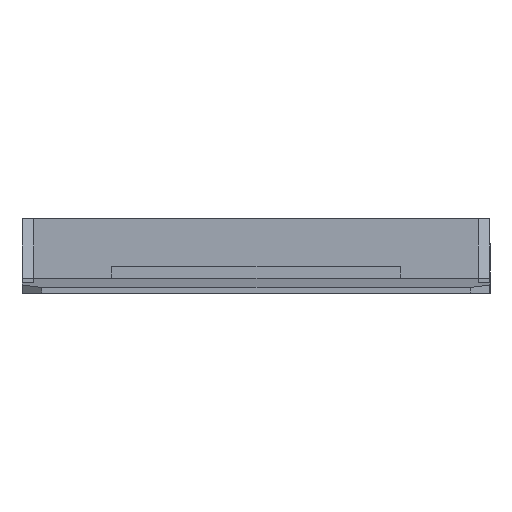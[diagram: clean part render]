
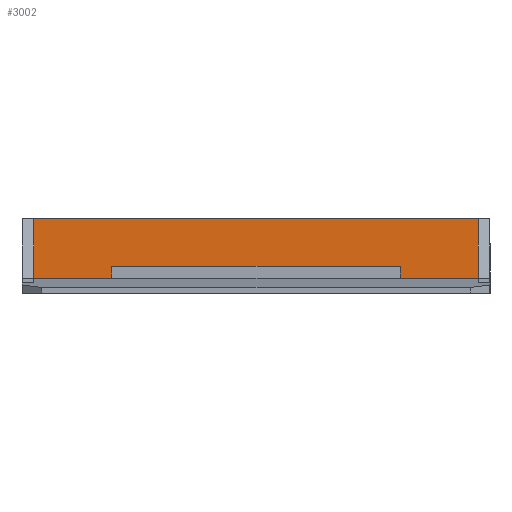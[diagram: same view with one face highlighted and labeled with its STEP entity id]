
A CAD part, left-side view. The second image highlights one B-rep face of the part: STEP entity #3002.
In plain terms, the highlighted planar face has unit normal (-1, 0, 0).
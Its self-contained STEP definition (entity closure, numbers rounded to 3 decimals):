
#1884 = PLANE('',#1885);
#1885 = AXIS2_PLACEMENT_3D('',#1886,#1887,#1888);
#1886 = CARTESIAN_POINT('',(92.,2.4,15.));
#1887 = DIRECTION('',(-0.,-0.,-1.));
#1888 = DIRECTION('',(-1.,0.,0.));
#1922 = VERTEX_POINT('',#1923);
#1923 = CARTESIAN_POINT('',(88.,2.4,15.));
#1939 = PLANE('',#1940);
#1940 = AXIS2_PLACEMENT_3D('',#1941,#1942,#1943);
#1941 = CARTESIAN_POINT('',(51.831,2.4,6.999));
#1942 = DIRECTION('',(-0.,-1.,-0.));
#1943 = DIRECTION('',(0.,0.,-1.));
#1951 = EDGE_CURVE('',#1922,#1952,#1954,.T.);
#1952 = VERTEX_POINT('',#1953);
#1953 = CARTESIAN_POINT('',(88.,91.6,15.));
#1954 = SURFACE_CURVE('',#1955,(#1959,#1966),.PCURVE_S1.);
#1955 = LINE('',#1956,#1957);
#1956 = CARTESIAN_POINT('',(88.,0.,15.));
#1957 = VECTOR('',#1958,1.);
#1958 = DIRECTION('',(0.,1.,0.));
#1959 = PCURVE('',#1884,#1960);
#1960 = DEFINITIONAL_REPRESENTATION('',(#1961),#1965);
#1961 = LINE('',#1962,#1963);
#1962 = CARTESIAN_POINT('',(4.,-2.4));
#1963 = VECTOR('',#1964,1.);
#1964 = DIRECTION('',(0.,1.));
#1965 = ( GEOMETRIC_REPRESENTATION_CONTEXT(2) 
PARAMETRIC_REPRESENTATION_CONTEXT() REPRESENTATION_CONTEXT('2D SPACE',''
  ) );
#1966 = PCURVE('',#1967,#1972);
#1967 = PLANE('',#1968);
#1968 = AXIS2_PLACEMENT_3D('',#1969,#1970,#1971);
#1969 = CARTESIAN_POINT('',(88.,0.,0.));
#1970 = DIRECTION('',(1.,0.,0.));
#1971 = DIRECTION('',(0.,0.,1.));
#1972 = DEFINITIONAL_REPRESENTATION('',(#1973),#1977);
#1973 = LINE('',#1974,#1975);
#1974 = CARTESIAN_POINT('',(15.,0.));
#1975 = VECTOR('',#1976,1.);
#1976 = DIRECTION('',(0.,-1.));
#1977 = ( GEOMETRIC_REPRESENTATION_CONTEXT(2) 
PARAMETRIC_REPRESENTATION_CONTEXT() REPRESENTATION_CONTEXT('2D SPACE',''
  ) );
#1995 = PLANE('',#1996);
#1996 = AXIS2_PLACEMENT_3D('',#1997,#1998,#1999);
#1997 = CARTESIAN_POINT('',(51.831,91.6,6.999));
#1998 = DIRECTION('',(-0.,-1.,-0.));
#1999 = DIRECTION('',(0.,0.,-1.));
#2353 = PLANE('',#2354);
#2354 = AXIS2_PLACEMENT_3D('',#2355,#2356,#2357);
#2355 = CARTESIAN_POINT('',(92.,94.,3.));
#2356 = DIRECTION('',(-0.,-0.,-1.));
#2357 = DIRECTION('',(-1.,0.,0.));
#2552 = VERTEX_POINT('',#2553);
#2553 = CARTESIAN_POINT('',(88.,91.6,3.));
#2574 = EDGE_CURVE('',#2552,#2575,#2577,.T.);
#2575 = VERTEX_POINT('',#2576);
#2576 = CARTESIAN_POINT('',(88.,73.636,3.));
#2577 = SURFACE_CURVE('',#2578,(#2582,#2589),.PCURVE_S1.);
#2578 = LINE('',#2579,#2580);
#2579 = CARTESIAN_POINT('',(88.,47.,3.));
#2580 = VECTOR('',#2581,1.);
#2581 = DIRECTION('',(0.,-1.,0.));
#2582 = PCURVE('',#2353,#2583);
#2583 = DEFINITIONAL_REPRESENTATION('',(#2584),#2588);
#2584 = LINE('',#2585,#2586);
#2585 = CARTESIAN_POINT('',(4.,-47.));
#2586 = VECTOR('',#2587,1.);
#2587 = DIRECTION('',(0.,-1.));
#2588 = ( GEOMETRIC_REPRESENTATION_CONTEXT(2) 
PARAMETRIC_REPRESENTATION_CONTEXT() REPRESENTATION_CONTEXT('2D SPACE',''
  ) );
#2589 = PCURVE('',#1967,#2590);
#2590 = DEFINITIONAL_REPRESENTATION('',(#2591),#2595);
#2591 = LINE('',#2592,#2593);
#2592 = CARTESIAN_POINT('',(3.,-47.));
#2593 = VECTOR('',#2594,1.);
#2594 = DIRECTION('',(0.,1.));
#2595 = ( GEOMETRIC_REPRESENTATION_CONTEXT(2) 
PARAMETRIC_REPRESENTATION_CONTEXT() REPRESENTATION_CONTEXT('2D SPACE',''
  ) );
#2613 = PLANE('',#2614);
#2614 = AXIS2_PLACEMENT_3D('',#2615,#2616,#2617);
#2615 = CARTESIAN_POINT('',(106.,63.,0.));
#2616 = DIRECTION('',(-0.509,-0.861,0.));
#2617 = DIRECTION('',(-0.861,0.509,0.));
#2654 = VERTEX_POINT('',#2655);
#2655 = CARTESIAN_POINT('',(88.,20.364,3.));
#2669 = PLANE('',#2670);
#2670 = AXIS2_PLACEMENT_3D('',#2671,#2672,#2673);
#2671 = CARTESIAN_POINT('',(84.,18.,0.));
#2672 = DIRECTION('',(-0.509,0.861,0.));
#2673 = DIRECTION('',(0.861,0.509,0.));
#2681 = EDGE_CURVE('',#2654,#2682,#2684,.T.);
#2682 = VERTEX_POINT('',#2683);
#2683 = CARTESIAN_POINT('',(88.,2.4,3.));
#2684 = SURFACE_CURVE('',#2685,(#2689,#2696),.PCURVE_S1.);
#2685 = LINE('',#2686,#2687);
#2686 = CARTESIAN_POINT('',(88.,47.,3.));
#2687 = VECTOR('',#2688,1.);
#2688 = DIRECTION('',(0.,-1.,0.));
#2689 = PCURVE('',#2353,#2690);
#2690 = DEFINITIONAL_REPRESENTATION('',(#2691),#2695);
#2691 = LINE('',#2692,#2693);
#2692 = CARTESIAN_POINT('',(4.,-47.));
#2693 = VECTOR('',#2694,1.);
#2694 = DIRECTION('',(0.,-1.));
#2695 = ( GEOMETRIC_REPRESENTATION_CONTEXT(2) 
PARAMETRIC_REPRESENTATION_CONTEXT() REPRESENTATION_CONTEXT('2D SPACE',''
  ) );
#2696 = PCURVE('',#1967,#2697);
#2697 = DEFINITIONAL_REPRESENTATION('',(#2698),#2702);
#2698 = LINE('',#2699,#2700);
#2699 = CARTESIAN_POINT('',(3.,-47.));
#2700 = VECTOR('',#2701,1.);
#2701 = DIRECTION('',(0.,1.));
#2702 = ( GEOMETRIC_REPRESENTATION_CONTEXT(2) 
PARAMETRIC_REPRESENTATION_CONTEXT() REPRESENTATION_CONTEXT('2D SPACE',''
  ) );
#2729 = EDGE_CURVE('',#2730,#2575,#2732,.T.);
#2730 = VERTEX_POINT('',#2731);
#2731 = CARTESIAN_POINT('',(88.,73.636,5.4));
#2732 = SURFACE_CURVE('',#2733,(#2737,#2744),.PCURVE_S1.);
#2733 = LINE('',#2734,#2735);
#2734 = CARTESIAN_POINT('',(88.,73.636,0.));
#2735 = VECTOR('',#2736,1.);
#2736 = DIRECTION('',(0.,-0.,-1.));
#2737 = PCURVE('',#2613,#2738);
#2738 = DEFINITIONAL_REPRESENTATION('',(#2739),#2743);
#2739 = LINE('',#2740,#2741);
#2740 = CARTESIAN_POINT('',(20.908,0.));
#2741 = VECTOR('',#2742,1.);
#2742 = DIRECTION('',(0.,1.));
#2743 = ( GEOMETRIC_REPRESENTATION_CONTEXT(2) 
PARAMETRIC_REPRESENTATION_CONTEXT() REPRESENTATION_CONTEXT('2D SPACE',''
  ) );
#2744 = PCURVE('',#1967,#2745);
#2745 = DEFINITIONAL_REPRESENTATION('',(#2746),#2750);
#2746 = LINE('',#2747,#2748);
#2747 = CARTESIAN_POINT('',(0.,-73.636));
#2748 = VECTOR('',#2749,1.);
#2749 = DIRECTION('',(-1.,0.));
#2750 = ( GEOMETRIC_REPRESENTATION_CONTEXT(2) 
PARAMETRIC_REPRESENTATION_CONTEXT() REPRESENTATION_CONTEXT('2D SPACE',''
  ) );
#2768 = PLANE('',#2769);
#2769 = AXIS2_PLACEMENT_3D('',#2770,#2771,#2772);
#2770 = CARTESIAN_POINT('',(139.777,47.,5.4));
#2771 = DIRECTION('',(0.,0.,1.));
#2772 = DIRECTION('',(1.,0.,-0.));
#2829 = VERTEX_POINT('',#2830);
#2830 = CARTESIAN_POINT('',(88.,20.364,5.4));
#2851 = EDGE_CURVE('',#2730,#2829,#2852,.T.);
#2852 = SURFACE_CURVE('',#2853,(#2857,#2864),.PCURVE_S1.);
#2853 = LINE('',#2854,#2855);
#2854 = CARTESIAN_POINT('',(88.,23.5,5.4));
#2855 = VECTOR('',#2856,1.);
#2856 = DIRECTION('',(0.,-1.,0.));
#2857 = PCURVE('',#2768,#2858);
#2858 = DEFINITIONAL_REPRESENTATION('',(#2859),#2863);
#2859 = LINE('',#2860,#2861);
#2860 = CARTESIAN_POINT('',(-51.777,-23.5));
#2861 = VECTOR('',#2862,1.);
#2862 = DIRECTION('',(0.,-1.));
#2863 = ( GEOMETRIC_REPRESENTATION_CONTEXT(2) 
PARAMETRIC_REPRESENTATION_CONTEXT() REPRESENTATION_CONTEXT('2D SPACE',''
  ) );
#2864 = PCURVE('',#1967,#2865);
#2865 = DEFINITIONAL_REPRESENTATION('',(#2866),#2870);
#2866 = LINE('',#2867,#2868);
#2867 = CARTESIAN_POINT('',(5.4,-23.5));
#2868 = VECTOR('',#2869,1.);
#2869 = DIRECTION('',(0.,1.));
#2870 = ( GEOMETRIC_REPRESENTATION_CONTEXT(2) 
PARAMETRIC_REPRESENTATION_CONTEXT() REPRESENTATION_CONTEXT('2D SPACE',''
  ) );
#2906 = EDGE_CURVE('',#2654,#2829,#2907,.T.);
#2907 = SURFACE_CURVE('',#2908,(#2912,#2919),.PCURVE_S1.);
#2908 = LINE('',#2909,#2910);
#2909 = CARTESIAN_POINT('',(88.,20.364,0.));
#2910 = VECTOR('',#2911,1.);
#2911 = DIRECTION('',(0.,-0.,1.));
#2912 = PCURVE('',#2669,#2913);
#2913 = DEFINITIONAL_REPRESENTATION('',(#2914),#2918);
#2914 = LINE('',#2915,#2916);
#2915 = CARTESIAN_POINT('',(4.646,0.));
#2916 = VECTOR('',#2917,1.);
#2917 = DIRECTION('',(0.,-1.));
#2918 = ( GEOMETRIC_REPRESENTATION_CONTEXT(2) 
PARAMETRIC_REPRESENTATION_CONTEXT() REPRESENTATION_CONTEXT('2D SPACE',''
  ) );
#2919 = PCURVE('',#1967,#2920);
#2920 = DEFINITIONAL_REPRESENTATION('',(#2921),#2925);
#2921 = LINE('',#2922,#2923);
#2922 = CARTESIAN_POINT('',(0.,-20.364));
#2923 = VECTOR('',#2924,1.);
#2924 = DIRECTION('',(1.,0.));
#2925 = ( GEOMETRIC_REPRESENTATION_CONTEXT(2) 
PARAMETRIC_REPRESENTATION_CONTEXT() REPRESENTATION_CONTEXT('2D SPACE',''
  ) );
#2981 = EDGE_CURVE('',#2552,#1952,#2982,.T.);
#2982 = SURFACE_CURVE('',#2983,(#2987,#2994),.PCURVE_S1.);
#2983 = LINE('',#2984,#2985);
#2984 = CARTESIAN_POINT('',(88.,91.6,3.5));
#2985 = VECTOR('',#2986,1.);
#2986 = DIRECTION('',(0.,0.,1.));
#2987 = PCURVE('',#1995,#2988);
#2988 = DEFINITIONAL_REPRESENTATION('',(#2989),#2993);
#2989 = LINE('',#2990,#2991);
#2990 = CARTESIAN_POINT('',(3.5,36.169));
#2991 = VECTOR('',#2992,1.);
#2992 = DIRECTION('',(-1.,0.));
#2993 = ( GEOMETRIC_REPRESENTATION_CONTEXT(2) 
PARAMETRIC_REPRESENTATION_CONTEXT() REPRESENTATION_CONTEXT('2D SPACE',''
  ) );
#2994 = PCURVE('',#1967,#2995);
#2995 = DEFINITIONAL_REPRESENTATION('',(#2996),#3000);
#2996 = LINE('',#2997,#2998);
#2997 = CARTESIAN_POINT('',(3.5,-91.6));
#2998 = VECTOR('',#2999,1.);
#2999 = DIRECTION('',(1.,0.));
#3000 = ( GEOMETRIC_REPRESENTATION_CONTEXT(2) 
PARAMETRIC_REPRESENTATION_CONTEXT() REPRESENTATION_CONTEXT('2D SPACE',''
  ) );
#3002 = ADVANCED_FACE('',(#3003),#1967,.F.);
#3003 = FACE_BOUND('',#3004,.F.);
#3004 = EDGE_LOOP('',(#3005,#3006,#3027,#3028,#3029,#3030,#3031,#3032));
#3005 = ORIENTED_EDGE('',*,*,#1951,.F.);
#3006 = ORIENTED_EDGE('',*,*,#3007,.F.);
#3007 = EDGE_CURVE('',#2682,#1922,#3008,.T.);
#3008 = SURFACE_CURVE('',#3009,(#3013,#3020),.PCURVE_S1.);
#3009 = LINE('',#3010,#3011);
#3010 = CARTESIAN_POINT('',(88.,2.4,3.5));
#3011 = VECTOR('',#3012,1.);
#3012 = DIRECTION('',(0.,0.,1.));
#3013 = PCURVE('',#1967,#3014);
#3014 = DEFINITIONAL_REPRESENTATION('',(#3015),#3019);
#3015 = LINE('',#3016,#3017);
#3016 = CARTESIAN_POINT('',(3.5,-2.4));
#3017 = VECTOR('',#3018,1.);
#3018 = DIRECTION('',(1.,0.));
#3019 = ( GEOMETRIC_REPRESENTATION_CONTEXT(2) 
PARAMETRIC_REPRESENTATION_CONTEXT() REPRESENTATION_CONTEXT('2D SPACE',''
  ) );
#3020 = PCURVE('',#1939,#3021);
#3021 = DEFINITIONAL_REPRESENTATION('',(#3022),#3026);
#3022 = LINE('',#3023,#3024);
#3023 = CARTESIAN_POINT('',(3.5,36.169));
#3024 = VECTOR('',#3025,1.);
#3025 = DIRECTION('',(-1.,0.));
#3026 = ( GEOMETRIC_REPRESENTATION_CONTEXT(2) 
PARAMETRIC_REPRESENTATION_CONTEXT() REPRESENTATION_CONTEXT('2D SPACE',''
  ) );
#3027 = ORIENTED_EDGE('',*,*,#2681,.F.);
#3028 = ORIENTED_EDGE('',*,*,#2906,.T.);
#3029 = ORIENTED_EDGE('',*,*,#2851,.F.);
#3030 = ORIENTED_EDGE('',*,*,#2729,.T.);
#3031 = ORIENTED_EDGE('',*,*,#2574,.F.);
#3032 = ORIENTED_EDGE('',*,*,#2981,.T.);
